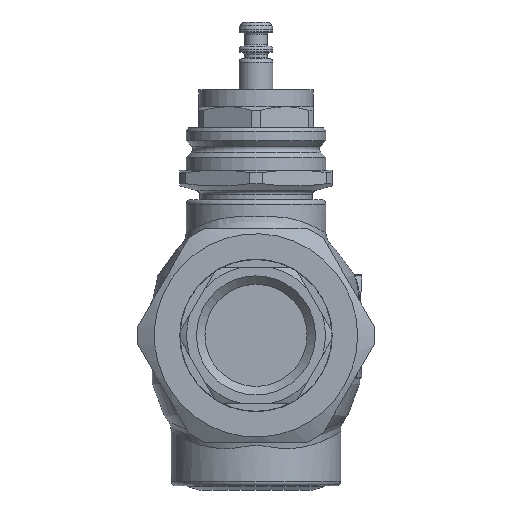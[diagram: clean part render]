
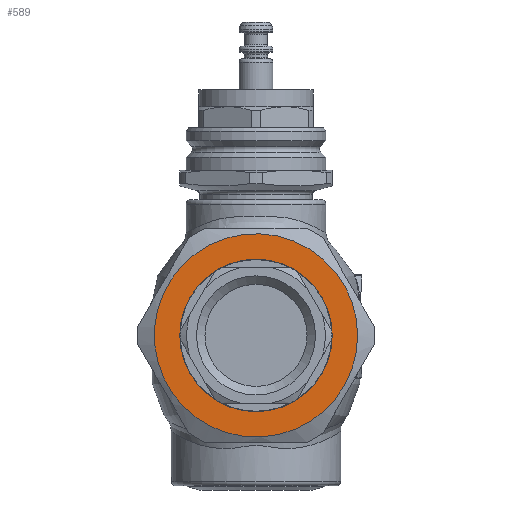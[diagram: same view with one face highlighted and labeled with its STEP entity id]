
A CAD part, left-side view. The second image highlights one B-rep face of the part: STEP entity #589.
In plain terms, the highlighted planar face has unit normal (-1, 0, 0).
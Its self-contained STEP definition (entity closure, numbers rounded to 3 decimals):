
#311=PLANE('',#3292);
#395=FACE_BOUND('',#991,.T.);
#396=FACE_BOUND('',#992,.T.);
#589=ADVANCED_FACE('',(#395,#396),#311,.T.);
#991=EDGE_LOOP('',(#1509));
#992=EDGE_LOOP('',(#1510));
#1310=CIRCLE('',#3290,18.);
#1311=CIRCLE('',#3291,24.);
#1509=ORIENTED_EDGE('',*,*,#2655,.T.);
#1510=ORIENTED_EDGE('',*,*,#2656,.T.);
#2353=VERTEX_POINT('',#4601);
#2354=VERTEX_POINT('',#4603);
#2655=EDGE_CURVE('',#2353,#2353,#1310,.T.);
#2656=EDGE_CURVE('',#2354,#2354,#1311,.T.);
#3290=AXIS2_PLACEMENT_3D('',#4600,#3709,#3710);
#3291=AXIS2_PLACEMENT_3D('',#4602,#3711,#3712);
#3292=AXIS2_PLACEMENT_3D('',#4604,#3713,#3714);
#3709=DIRECTION('',(1.,0.,0.));
#3710=DIRECTION('',(0.,1.,0.));
#3711=DIRECTION('',(-1.,0.,0.));
#3712=DIRECTION('',(0.,-1.,0.));
#3713=DIRECTION('',(-1.,0.,0.));
#3714=DIRECTION('',(0.,-1.,0.));
#4600=CARTESIAN_POINT('',(41.,0.,100.));
#4601=CARTESIAN_POINT('',(41.,18.,100.));
#4602=CARTESIAN_POINT('',(41.,0.,100.));
#4603=CARTESIAN_POINT('',(41.,-24.,100.));
#4604=CARTESIAN_POINT('',(41.,0.,100.));
